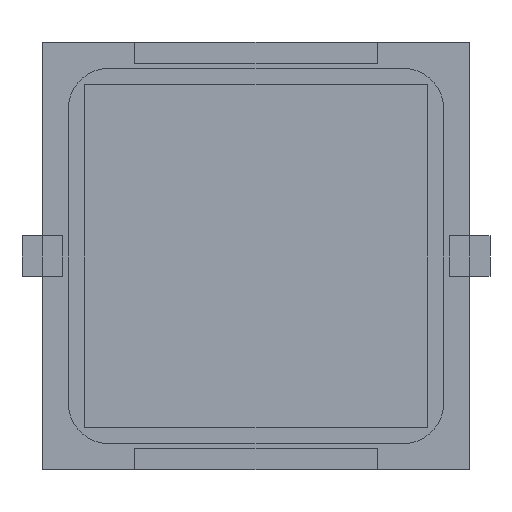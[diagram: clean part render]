
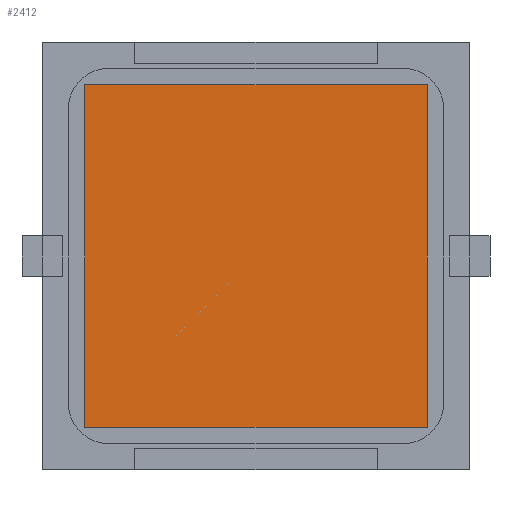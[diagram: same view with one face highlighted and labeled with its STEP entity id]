
A CAD part, front view. The second image highlights one B-rep face of the part: STEP entity #2412.
In plain terms, the highlighted planar face has unit normal (0, -1, 0).
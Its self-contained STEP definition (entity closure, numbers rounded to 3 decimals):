
#171 = EDGE_CURVE ( 'NONE', #3325, #1492, #2213, .T. ) ;
#238 = PLANE ( 'NONE',  #4114 ) ;
#509 = LINE ( 'NONE', #4676, #2759 ) ;
#800 = DIRECTION ( 'NONE',  ( 0., 0., 1. ) ) ;
#884 = EDGE_CURVE ( 'NONE', #1492, #3447, #5482, .T. ) ;
#1057 = EDGE_LOOP ( 'NONE', ( #5324, #1930, #2244, #1404 ) ) ;
#1287 = DIRECTION ( 'NONE',  ( 1., 0., 0. ) ) ;
#1404 = ORIENTED_EDGE ( 'NONE', *, *, #171, .F. ) ;
#1492 = VERTEX_POINT ( 'NONE', #1517 ) ;
#1517 = CARTESIAN_POINT ( 'NONE',  ( 8.5, -0.127, 8.5 ) ) ;
#1683 = DIRECTION ( 'NONE',  ( 0., 1., 0. ) ) ;
#1742 = VECTOR ( 'NONE', #5005, 1000. ) ;
#1814 = DIRECTION ( 'NONE',  ( 0., 0., -1. ) ) ;
#1926 = VECTOR ( 'NONE', #1287, 1000. ) ;
#1930 = ORIENTED_EDGE ( 'NONE', *, *, #3024, .F. ) ;
#2108 = CARTESIAN_POINT ( 'NONE',  ( 8.5, -0.127, -8.5 ) ) ;
#2213 = LINE ( 'NONE', #5331, #1926 ) ;
#2244 = ORIENTED_EDGE ( 'NONE', *, *, #884, .F. ) ;
#2412 = ADVANCED_FACE ( 'NONE', ( #5604 ), #238, .F. ) ;
#2759 = VECTOR ( 'NONE', #2813, 1000. ) ;
#2813 = DIRECTION ( 'NONE',  ( -1., 0., 0. ) ) ;
#3024 = EDGE_CURVE ( 'NONE', #3447, #4562, #509, .T. ) ;
#3325 = VERTEX_POINT ( 'NONE', #3794 ) ;
#3447 = VERTEX_POINT ( 'NONE', #2108 ) ;
#3681 = LINE ( 'NONE', #5808, #1742 ) ;
#3794 = CARTESIAN_POINT ( 'NONE',  ( -8.5, -0.127, 8.5 ) ) ;
#4114 = AXIS2_PLACEMENT_3D ( 'NONE', #4912, #1683, #800 ) ;
#4275 = EDGE_CURVE ( 'NONE', #4562, #3325, #3681, .T. ) ;
#4562 = VERTEX_POINT ( 'NONE', #5238 ) ;
#4638 = CARTESIAN_POINT ( 'NONE',  ( 8.5, -0.127, -8.5 ) ) ;
#4676 = CARTESIAN_POINT ( 'NONE',  ( -8.5, -0.127, -8.5 ) ) ;
#4912 = CARTESIAN_POINT ( 'NONE',  ( -8.5, -0.127, 8.5 ) ) ;
#5005 = DIRECTION ( 'NONE',  ( 0., 0., 1. ) ) ;
#5238 = CARTESIAN_POINT ( 'NONE',  ( -8.5, -0.127, -8.5 ) ) ;
#5324 = ORIENTED_EDGE ( 'NONE', *, *, #4275, .F. ) ;
#5331 = CARTESIAN_POINT ( 'NONE',  ( -8.5, -0.127, 8.5 ) ) ;
#5482 = LINE ( 'NONE', #4638, #5700 ) ;
#5604 = FACE_OUTER_BOUND ( 'NONE', #1057, .T. ) ;
#5700 = VECTOR ( 'NONE', #1814, 1000. ) ;
#5808 = CARTESIAN_POINT ( 'NONE',  ( -8.5, -0.127, -8.5 ) ) ;
